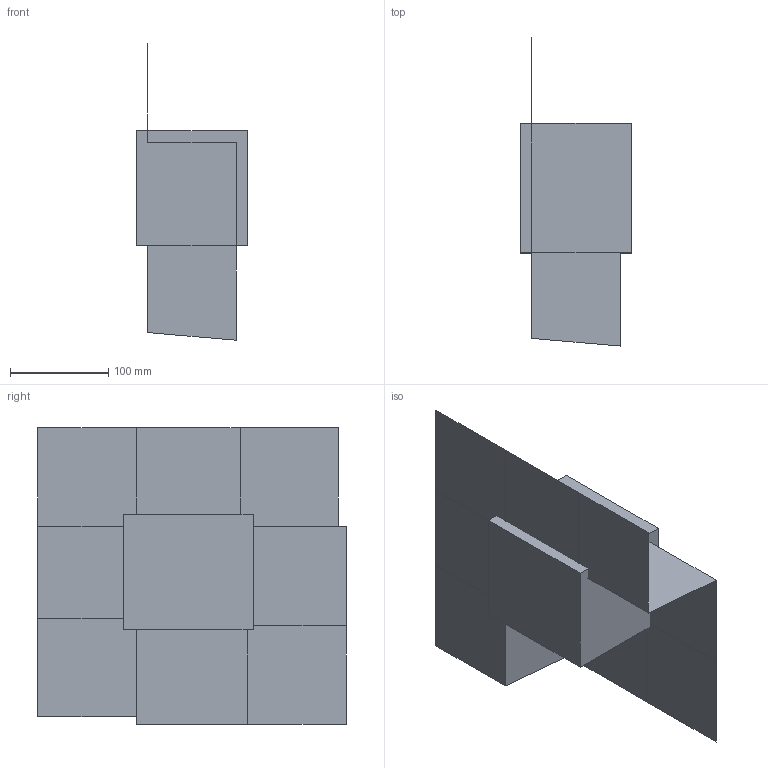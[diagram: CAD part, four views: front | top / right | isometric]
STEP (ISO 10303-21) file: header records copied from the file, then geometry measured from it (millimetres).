
FILE_DESCRIPTION(('CATIA V5 STEP Exchange'),'2;1');
FILE_NAME('C:\_Andres\UNIVERSIDAD\IQS\ASIGNATURAS\DAO\EXF\EXF-15161c\1original\Sala_García_Ej02-moldes_v22.stp','2016-03-04T15:45:43+00:00',('none'),('none'),'CATIA Version 5 Release 20 SP 1 (IN-10)','CATIA V5 STEP AP203','none');
FILE_SCHEMA(('CONFIG_CONTROL_DESIGN'));
Length unit declared in the file: millimetre
Products named in the file (1): Sala_García_Ej02-moldes_v22
Bounding box: 112 x 313.44 x 301.44 mm (x, y, z)
Volume: 3661244.3 mm3; surface area: 389468.7 mm2
Topology: 3 solids, 7 shells, 45 faces, 118 edges, 83 vertices
Faces by surface type: plane 41, cylinder 4
Entity records: 1101 total; most frequent: ORIENTED_EDGE 198, CARTESIAN_POINT 179, DIRECTION 147, EDGE_CURVE 83, VECTOR 73, LINE 73, VERTEX_POINT 56, EDGE_LOOP 49
